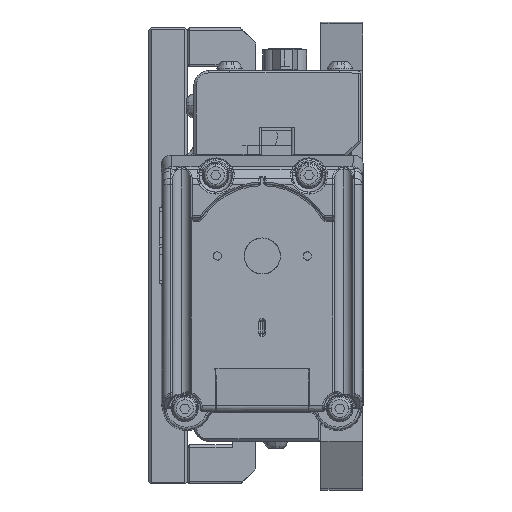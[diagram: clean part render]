
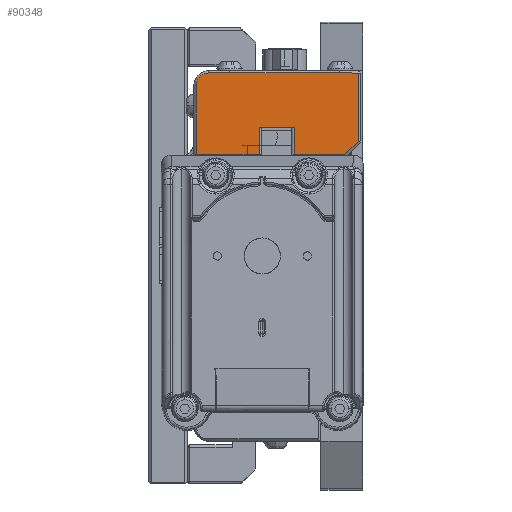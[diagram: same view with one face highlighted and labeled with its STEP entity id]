
A CAD part, left-side view. The second image highlights one B-rep face of the part: STEP entity #90348.
In plain terms, the highlighted planar face has unit normal (-1, 0, 0).
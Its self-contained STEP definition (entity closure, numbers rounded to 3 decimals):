
#858 = ORIENTED_EDGE ( 'NONE', *, *, #37377, .T. ) ;
#1658 = DIRECTION ( 'NONE',  ( 1., 0., 0. ) ) ;
#3411 = LINE ( 'NONE', #51926, #50850 ) ;
#4164 = LINE ( 'NONE', #119764, #102705 ) ;
#5578 = CIRCLE ( 'NONE', #122374, 2.667 ) ;
#5650 = ORIENTED_EDGE ( 'NONE', *, *, #37721, .T. ) ;
#8608 = CARTESIAN_POINT ( 'NONE',  ( -73.66, 3.843, 60.706 ) ) ;
#8707 = DIRECTION ( 'NONE',  ( 0., -0.707, 0.707 ) ) ;
#8848 = VECTOR ( 'NONE', #67665, 1000. ) ;
#8933 = ORIENTED_EDGE ( 'NONE', *, *, #40230, .T. ) ;
#9621 = VECTOR ( 'NONE', #102452, 1000. ) ;
#9697 = ORIENTED_EDGE ( 'NONE', *, *, #104299, .T. ) ;
#10232 = CARTESIAN_POINT ( 'NONE',  ( -73.66, 14.554, 60.706 ) ) ;
#11983 = CARTESIAN_POINT ( 'NONE',  ( -73.66, 35.763, 60.706 ) ) ;
#12216 = ORIENTED_EDGE ( 'NONE', *, *, #109278, .F. ) ;
#13569 = LINE ( 'NONE', #11983, #109288 ) ;
#17241 = ORIENTED_EDGE ( 'NONE', *, *, #109659, .F. ) ;
#20372 = VECTOR ( 'NONE', #76531, 1000. ) ;
#22365 = FACE_OUTER_BOUND ( 'NONE', #53737, .T. ) ;
#31039 = DIRECTION ( 'NONE',  ( 0., -1., 0. ) ) ;
#31891 = EDGE_CURVE ( 'NONE', #98193, #116324, #60031, .T. ) ;
#34064 = LINE ( 'NONE', #67978, #8848 ) ;
#34463 = EDGE_CURVE ( 'NONE', #116324, #116214, #34064, .T. ) ;
#37377 = EDGE_CURVE ( 'NONE', #116214, #84701, #99337, .T. ) ;
#37721 = EDGE_CURVE ( 'NONE', #84701, #102771, #72066, .T. ) ;
#40230 = EDGE_CURVE ( 'NONE', #102771, #121956, #4164, .T. ) ;
#41237 = CARTESIAN_POINT ( 'NONE',  ( -73.66, 32.588, 77.978 ) ) ;
#43083 = EDGE_CURVE ( 'NONE', #120788, #98193, #93572, .T. ) ;
#49736 = VECTOR ( 'NONE', #8707, 1000. ) ;
#50850 = VECTOR ( 'NONE', #119113, 1000. ) ;
#51926 = CARTESIAN_POINT ( 'NONE',  ( -73.66, 35.763, 77.978 ) ) ;
#53506 = VERTEX_POINT ( 'NONE', #121819 ) ;
#53737 = EDGE_LOOP ( 'NONE', ( #107745, #111021, #117142, #121246, #858, #5650, #8933, #9697, #12216, #17241 ) ) ;
#54904 = DIRECTION ( 'NONE',  ( 0., 0., 1. ) ) ;
#58461 = CARTESIAN_POINT ( 'NONE',  ( -73.66, 32.588, 75.311 ) ) ;
#60031 = LINE ( 'NONE', #105820, #9621 ) ;
#67665 = DIRECTION ( 'NONE',  ( 0., 0., -1. ) ) ;
#67978 = CARTESIAN_POINT ( 'NONE',  ( -73.66, 14.554, 78.486 ) ) ;
#68058 = DIRECTION ( 'NONE',  ( 0., 0., -1. ) ) ;
#72066 = LINE ( 'NONE', #8608, #49736 ) ;
#75092 = EDGE_CURVE ( 'NONE', #53506, #120788, #13569, .T. ) ;
#76531 = DIRECTION ( 'NONE',  ( 0., 0., 1. ) ) ;
#76552 = CARTESIAN_POINT ( 'NONE',  ( -73.66, 21.92, 78.486 ) ) ;
#79749 = VECTOR ( 'NONE', #113054, 1000. ) ;
#84339 = CARTESIAN_POINT ( 'NONE',  ( -73.66, 35.255, 78.486 ) ) ;
#84701 = VERTEX_POINT ( 'NONE', #121889 ) ;
#86079 = LINE ( 'NONE', #84339, #111715 ) ;
#87808 = AXIS2_PLACEMENT_3D ( 'NONE', #102787, #112543, #54904 ) ;
#90033 = VERTEX_POINT ( 'NONE', #123333 ) ;
#90348 = ADVANCED_FACE ( 'NONE', ( #22365 ), #93149, .T. ) ;
#93149 = PLANE ( 'NONE',  #87808 ) ;
#93572 = LINE ( 'NONE', #76552, #20372 ) ;
#94006 = DIRECTION ( 'NONE',  ( 0., 0., 1. ) ) ;
#94488 = VERTEX_POINT ( 'NONE', #41237 ) ;
#94542 = CARTESIAN_POINT ( 'NONE',  ( -73.66, 21.92, 66.548 ) ) ;
#98193 = VERTEX_POINT ( 'NONE', #94542 ) ;
#99017 = CARTESIAN_POINT ( 'NONE',  ( -73.66, 0.965, 63.583 ) ) ;
#99337 = LINE ( 'NONE', #112906, #79749 ) ;
#102452 = DIRECTION ( 'NONE',  ( 0., -1., 0. ) ) ;
#102705 = VECTOR ( 'NONE', #118552, 1000. ) ;
#102769 = CARTESIAN_POINT ( 'NONE',  ( -73.66, 21.92, 60.706 ) ) ;
#102771 = VERTEX_POINT ( 'NONE', #99017 ) ;
#102787 = CARTESIAN_POINT ( 'NONE',  ( -73.66, 35.763, 78.486 ) ) ;
#104299 = EDGE_CURVE ( 'NONE', #121956, #94488, #3411, .T. ) ;
#105820 = CARTESIAN_POINT ( 'NONE',  ( -73.66, 35.763, 66.548 ) ) ;
#107535 = CARTESIAN_POINT ( 'NONE',  ( -73.66, 14.554, 66.548 ) ) ;
#107745 = ORIENTED_EDGE ( 'NONE', *, *, #75092, .T. ) ;
#109278 = EDGE_CURVE ( 'NONE', #90033, #94488, #5578, .T. ) ;
#109288 = VECTOR ( 'NONE', #31039, 1000. ) ;
#109659 = EDGE_CURVE ( 'NONE', #53506, #90033, #86079, .T. ) ;
#111021 = ORIENTED_EDGE ( 'NONE', *, *, #43083, .T. ) ;
#111715 = VECTOR ( 'NONE', #94006, 1000. ) ;
#112543 = DIRECTION ( 'NONE',  ( -1., 0., 0. ) ) ;
#112906 = CARTESIAN_POINT ( 'NONE',  ( -73.66, 35.763, 60.706 ) ) ;
#113054 = DIRECTION ( 'NONE',  ( 0., -1., 0. ) ) ;
#116214 = VERTEX_POINT ( 'NONE', #10232 ) ;
#116324 = VERTEX_POINT ( 'NONE', #107535 ) ;
#117142 = ORIENTED_EDGE ( 'NONE', *, *, #31891, .T. ) ;
#118552 = DIRECTION ( 'NONE',  ( 0., 0., 1. ) ) ;
#119113 = DIRECTION ( 'NONE',  ( 0., 1., 0. ) ) ;
#119764 = CARTESIAN_POINT ( 'NONE',  ( -73.66, 0.965, 78.486 ) ) ;
#120788 = VERTEX_POINT ( 'NONE', #102769 ) ;
#121246 = ORIENTED_EDGE ( 'NONE', *, *, #34463, .T. ) ;
#121819 = CARTESIAN_POINT ( 'NONE',  ( -73.66, 35.255, 60.706 ) ) ;
#121889 = CARTESIAN_POINT ( 'NONE',  ( -73.66, 3.843, 60.706 ) ) ;
#121956 = VERTEX_POINT ( 'NONE', #122159 ) ;
#122159 = CARTESIAN_POINT ( 'NONE',  ( -73.66, 0.965, 77.978 ) ) ;
#122374 = AXIS2_PLACEMENT_3D ( 'NONE', #58461, #1658, #68058 ) ;
#123333 = CARTESIAN_POINT ( 'NONE',  ( -73.66, 35.255, 75.311 ) ) ;
